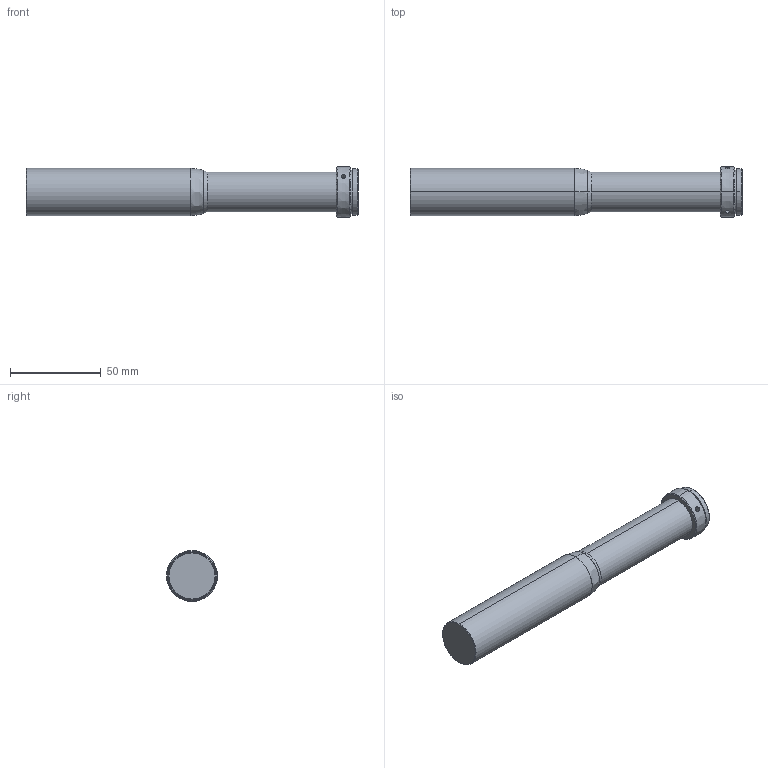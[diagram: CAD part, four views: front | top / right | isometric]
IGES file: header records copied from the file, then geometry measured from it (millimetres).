
Start section: SolidWorks IGES file using analytic representation for surfaces
Global section: file name: D:\撮扲窒\3D俋倛芞\3D   igs\WWH\WWH10-410AT.IGS; native system: SolidWorks 2012; preprocessor: SolidWorks 2012; author: ZXC; date: 180307.151126; units: millimetre
Bounding box: 182.9 x 28 x 28 mm (x, y, z)
Surface area: 15539.3 mm2 (no closed solid volume)
Topology: 0 solids, 0 shells, 39 faces, 530 edges, 524 vertices
Faces by surface type: revolution 32, bspline 7
